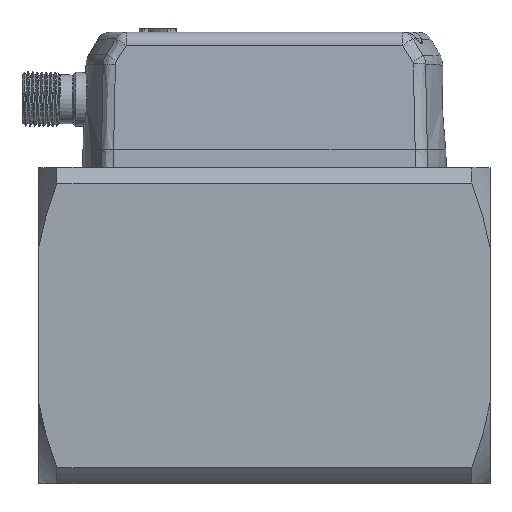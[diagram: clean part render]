
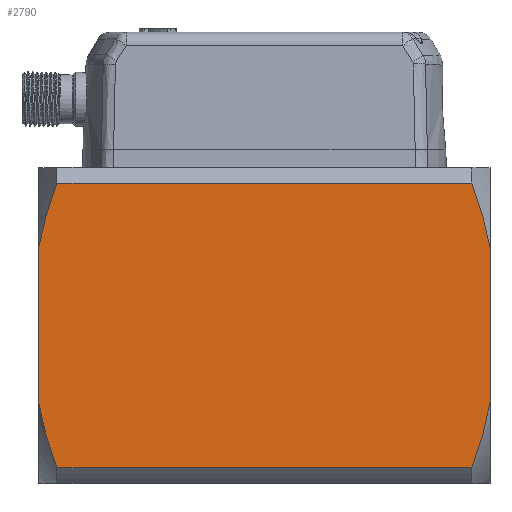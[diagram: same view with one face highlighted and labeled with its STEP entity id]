
A CAD part, top view. The second image highlights one B-rep face of the part: STEP entity #2790.
In plain terms, the highlighted planar face has unit normal (0, 0, 1).
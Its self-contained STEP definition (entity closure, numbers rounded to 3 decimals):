
#1094=B_SPLINE_CURVE_WITH_KNOTS('',3,(#29070,#29071,#29072,#29073),
 .UNSPECIFIED.,.F.,.F.,(4,4),(0.,1.),.UNSPECIFIED.);
#1095=B_SPLINE_CURVE_WITH_KNOTS('',3,(#29084,#29085,#29086,#29087),
 .UNSPECIFIED.,.F.,.F.,(4,4),(0.,1.),.UNSPECIFIED.);
#1096=B_SPLINE_CURVE_WITH_KNOTS('',3,(#29091,#29092,#29093,#29094),
 .UNSPECIFIED.,.F.,.F.,(4,4),(0.,1.),.UNSPECIFIED.);
#1097=B_SPLINE_CURVE_WITH_KNOTS('',3,(#29097,#29098,#29099,#29100),
 .UNSPECIFIED.,.F.,.F.,(4,4),(0.,1.),.UNSPECIFIED.);
#2080=PLANE('',#20757);
#2790=ADVANCED_FACE('',(#4003),#2080,.T.);
#4003=FACE_OUTER_BOUND('',#5136,.T.);
#5136=EDGE_LOOP('',(#10871,#10872,#10873,#10874,#10875,#10876,#10877,#10878));
#6350=LINE('',#29077,#7986);
#6351=LINE('',#29081,#7987);
#6352=LINE('',#29089,#7988);
#6353=LINE('',#29095,#7989);
#7986=VECTOR('',#22974,1.);
#7987=VECTOR('',#22979,1.);
#7988=VECTOR('',#22980,1.);
#7989=VECTOR('',#22981,1.);
#10871=ORIENTED_EDGE('',*,*,#17627,.F.);
#10872=ORIENTED_EDGE('',*,*,#17628,.T.);
#10873=ORIENTED_EDGE('',*,*,#17629,.F.);
#10874=ORIENTED_EDGE('',*,*,#17630,.T.);
#10875=ORIENTED_EDGE('',*,*,#17625,.F.);
#10876=ORIENTED_EDGE('',*,*,#17623,.F.);
#10877=ORIENTED_EDGE('',*,*,#17631,.T.);
#10878=ORIENTED_EDGE('',*,*,#17632,.F.);
#15540=VERTEX_POINT('',#29069);
#15541=VERTEX_POINT('',#29074);
#15542=VERTEX_POINT('',#29078);
#15543=VERTEX_POINT('',#29082);
#15544=VERTEX_POINT('',#29083);
#15545=VERTEX_POINT('',#29088);
#15546=VERTEX_POINT('',#29090);
#15547=VERTEX_POINT('',#29096);
#17623=EDGE_CURVE('',#15540,#15541,#1094,.T.);
#17625=EDGE_CURVE('',#15541,#15542,#6350,.T.);
#17627=EDGE_CURVE('',#15543,#15544,#6351,.T.);
#17628=EDGE_CURVE('',#15543,#15545,#1095,.T.);
#17629=EDGE_CURVE('',#15546,#15545,#6352,.T.);
#17630=EDGE_CURVE('',#15546,#15542,#1096,.T.);
#17631=EDGE_CURVE('',#15540,#15547,#6353,.T.);
#17632=EDGE_CURVE('',#15544,#15547,#1097,.T.);
#20757=AXIS2_PLACEMENT_3D('',#29101,#22982,#22983);
#22974=DIRECTION('',(1.,0.,0.));
#22979=DIRECTION('',(-1.,0.,0.));
#22980=DIRECTION('',(0.,-1.,0.));
#22981=DIRECTION('',(0.,-1.,0.));
#22982=DIRECTION('',(0.,0.,1.));
#22983=DIRECTION('',(-1.,0.,0.));
#29069=CARTESIAN_POINT('',(-5.,-12.349,15.5));
#29070=CARTESIAN_POINT('',(-5.,-12.349,15.5));
#29071=CARTESIAN_POINT('',(-4.214,-7.391,15.5));
#29072=CARTESIAN_POINT('',(-2.723,-2.632,15.5));
#29073=CARTESIAN_POINT('',(-0.959,2.051,15.5));
#29074=CARTESIAN_POINT('',(-0.959,2.051,15.5));
#29077=CARTESIAN_POINT('',(-5.,2.051,15.5));
#29078=CARTESIAN_POINT('',(90.959,2.051,15.5));
#29081=CARTESIAN_POINT('',(95.,-61.031,15.5));
#29082=CARTESIAN_POINT('',(90.959,-61.031,15.5));
#29083=CARTESIAN_POINT('',(-0.959,-61.031,15.5));
#29084=CARTESIAN_POINT('',(90.959,-61.031,15.5));
#29085=CARTESIAN_POINT('',(92.723,-56.348,15.5));
#29086=CARTESIAN_POINT('',(94.214,-51.589,15.5));
#29087=CARTESIAN_POINT('',(95.,-46.631,15.5));
#29088=CARTESIAN_POINT('',(95.,-46.631,15.5));
#29089=CARTESIAN_POINT('',(95.,-7.949,15.5));
#29090=CARTESIAN_POINT('',(95.,-12.349,15.5));
#29091=CARTESIAN_POINT('',(95.,-12.349,15.5));
#29092=CARTESIAN_POINT('',(94.214,-7.391,15.5));
#29093=CARTESIAN_POINT('',(92.723,-2.632,15.5));
#29094=CARTESIAN_POINT('',(90.959,2.051,15.5));
#29095=CARTESIAN_POINT('',(-5.,-7.949,15.5));
#29096=CARTESIAN_POINT('',(-5.,-46.631,15.5));
#29097=CARTESIAN_POINT('',(-0.959,-61.031,15.5));
#29098=CARTESIAN_POINT('',(-2.723,-56.348,15.5));
#29099=CARTESIAN_POINT('',(-4.214,-51.589,15.5));
#29100=CARTESIAN_POINT('',(-5.,-46.631,15.5));
#29101=CARTESIAN_POINT('',(95.,-4.49,15.5));
